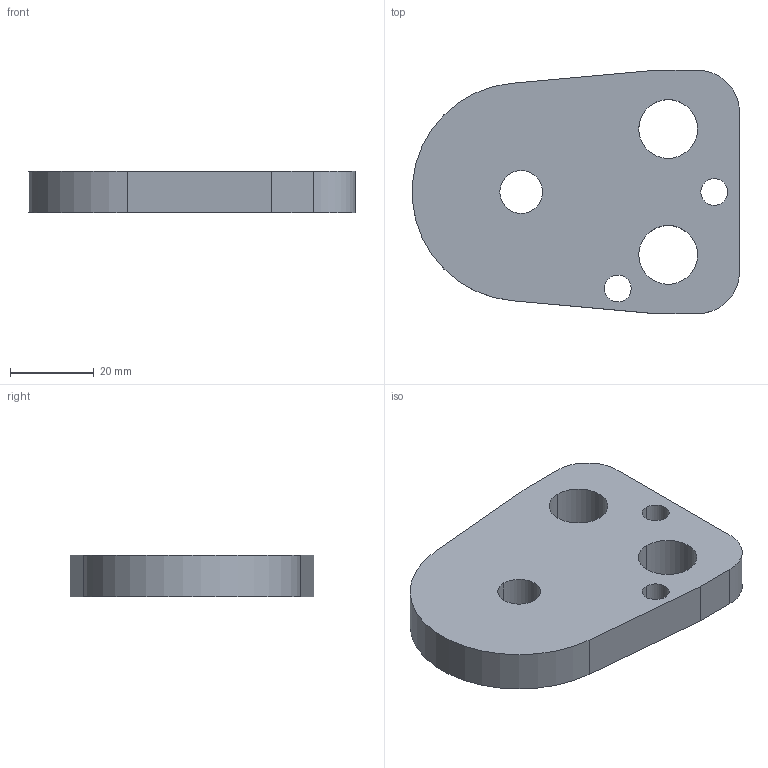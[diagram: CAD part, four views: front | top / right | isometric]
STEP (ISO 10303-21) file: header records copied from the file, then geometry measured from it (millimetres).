
FILE_DESCRIPTION(/* description */ (''),/* implementation_level */ '2;1');
FILE_NAME(/* name */ '3d_bpc38-10_03414_r00.stp',/* time_stamp */ '2011-01-10T14:17:09+09:00',/* author */ ('MISUMI'),/* organization */ (''),/* preprocessor_version */ 'ST-DEVELOPER v11',/* originating_system */ 'UGS - NX 5.0',/* authorisation */ '');
FILE_SCHEMA (('CONFIG_CONTROL_DESIGN'));
Length unit declared in the file: millimetre
Products named in the file (1): 3d_bpc38-10_03414_r00
Bounding box: 77.9 x 58 x 10 mm (x, y, z)
Volume: 34885.7 mm3; surface area: 10933.1 mm2
Topology: 1 solids, 1 shells, 20 faces, 54 edges, 36 vertices
Faces by surface type: cylinder 13, plane 7
Entity records: 750 total; most frequent: DIRECTION 122, CARTESIAN_POINT 111, ORIENTED_EDGE 108, EDGE_CURVE 54, AXIS2_PLACEMENT_3D 47, VERTEX_POINT 36, EDGE_LOOP 30, LINE 28
